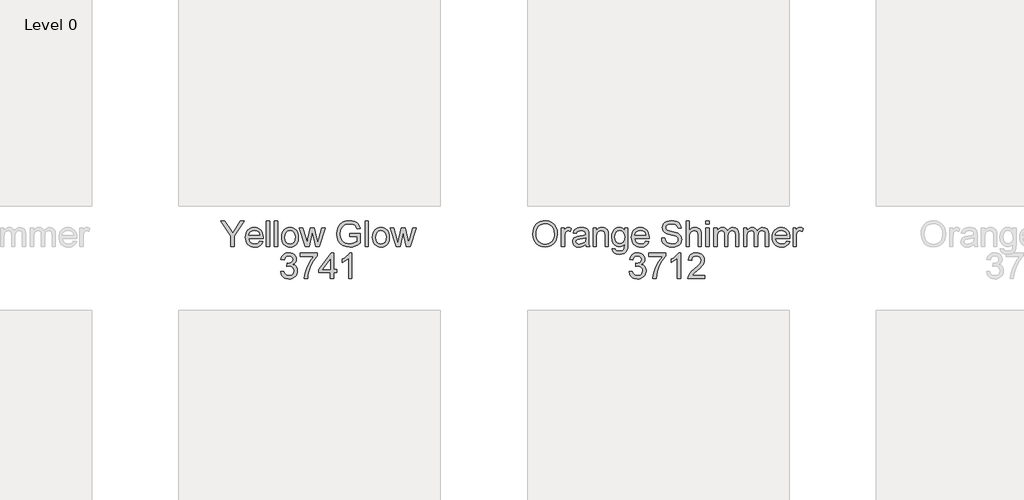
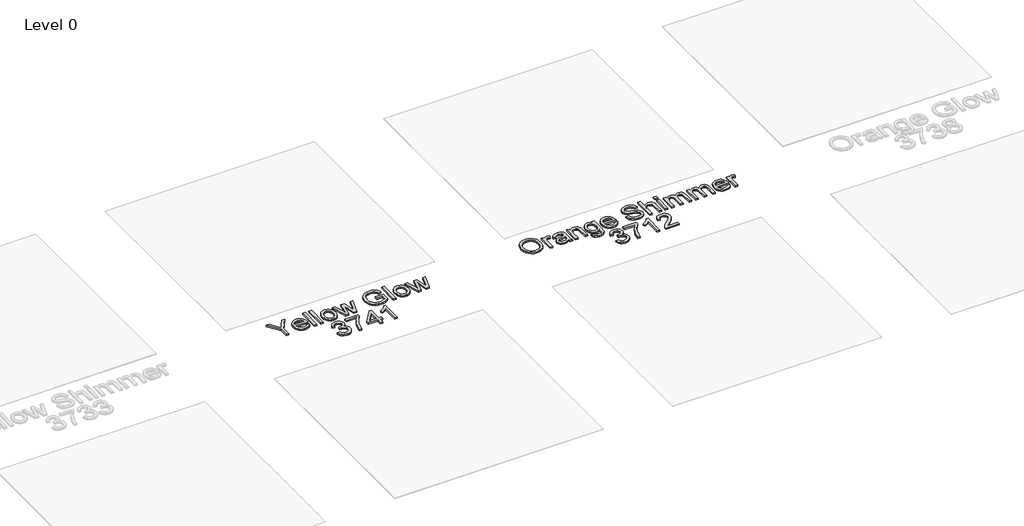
# One storey, part 13 of 14: 2 proxies.
"""IFC4 building model written with IfcOpenShell, lengths in millimetres."""

from ifc_helpers import new_model, si_unit, origin, origin_with_axes, place, context, project, spatial, polyline, outline, extrude, element, save

model = new_model("IFC4")

# Units and contexts
model_context = context("Model", 3, world=origin())
ifc_project = project(units=[si_unit("LENGTHUNIT", "METRE", prefix="MILLI")], contexts=[model_context])

# Site, building, storey
site = spatial("IfcSite", under=ifc_project)
building = spatial("IfcBuilding", under=site)
storey = spatial("IfcBuildingStorey", under=building, Name="Level 0", Elevation=0.0)

# Proxies
placement = place(None, origin())
element("IfcBuildingElementProxy", 1, Name="300mm Arial", ObjectType="300mm Arial", at=placement, inside=storey, context=model_context, shape_type="SweptSolid", body=[
    extrude(outline(polyline([(-4856.1906494, 2062.8269821), (-4856.1906494, 2187.9471745), (-4971.5752648, 2358.2115975), (-4928.0175725, 2358.2115975), (-4866.431034, 2267.2740975), (-4834.916611, 2220.9039052), (-4803.3300725, 2270.5914052), (-4747.4406494, 2358.2115975), (-4703.8829571, 2358.2115975), (-4819.2675725, 2187.9471745), (-4819.2675725, 2062.8269821), (-4856.1906494, 2062.8269821)])), origin_with_axes(), (0.0, 0.0, 1.0), 20.0),
    extrude(outline(polyline([(-4524.3156494, 2127.4423668), (-4488.1137264, 2122.8269821), (-4501.1575965, 2095.5493379), (-4521.9718994, 2075.1587129), (-4550.087885, 2062.4483764), (-4585.0368033, 2058.2115975), (-4607.9469595, 2060.0392718), (-4628.3601206, 2065.5222946), (-4646.2762864, 2074.660666), (-4661.6954571, 2087.454386), (-4674.0947961, 2103.5473848), (-4682.9514667, 2122.5835927), (-4688.2654691, 2144.5630098), (-4690.0368033, 2169.485636), (-4688.2474403, 2195.2533644), (-4682.8793514, 2217.9652033), (-4673.9325364, 2237.6211528), (-4661.4069956, 2254.2212129), (-4646.0283898, 2267.4093139), (-4628.5223802, 2276.829386), (-4608.8889667, 2282.4814293), (-4587.1281494, 2284.3654437), (-4566.0682035, 2282.4859365), (-4547.0229812, 2276.8474148), (-4529.9924824, 2267.4498788), (-4514.9767071, 2254.2933283), (-4502.7193453, 2237.7293259), (-4493.9640869, 2218.1094341), (-4488.7109319, 2195.4336528), (-4486.9598802, 2169.7019821), (-4487.1762264, 2159.7500591), (-4653.1137264, 2159.7500591), (-4646.7225004, 2132.1118379), (-4631.8757456, 2111.7933283), (-4610.4484619, 2099.2993379), (-4584.3156494, 2095.1346745), (-4564.6642071, 2097.063761), (-4548.1137264, 2102.8510206), (-4534.6642071, 2112.8570302), (-4524.3156494, 2127.4423668)]), holes=[polyline([(-4653.1137264, 2196.673136), (-4523.8829571, 2196.673136), (-4528.8769475, 2216.1803475), (-4538.666611, 2230.1346745), (-4560.1930533, 2243.1154437), (-4587.2723802, 2247.4423668), (-4612.1612023, 2243.9898427), (-4632.7411302, 2233.6322706), (-4647.0470196, 2217.4874389), (-4653.1137264, 2196.673136)])]), origin_with_axes(), (0.0, 0.0, 1.0), 20.0),
    extrude(outline(polyline([(-4450.0368033, 2062.8269821), (-4450.0368033, 2358.2115975), (-4413.1137264, 2358.2115975), (-4413.1137264, 2062.8269821), (-4450.0368033, 2062.8269821)])), origin_with_axes(), (0.0, 0.0, 1.0), 20.0),
    extrude(outline(polyline([(-4357.729111, 2062.8269821), (-4357.729111, 2358.2115975), (-4320.806034, 2358.2115975), (-4320.806034, 2062.8269821), (-4357.729111, 2062.8269821)])), origin_with_axes(), (0.0, 0.0, 1.0), 20.0),
    extrude(outline(polyline([(-4274.6521879, 2171.2885206), (-4272.6554932, 2199.3819701), (-4266.665409, 2223.5902033), (-4256.6819355, 2243.9132201), (-4242.7050725, 2260.3510206), (-4228.6335581, 2270.8573307), (-4213.1017071, 2278.3618379), (-4196.1095196, 2282.8645422), (-4177.6569956, 2284.3654437), (-4157.286653, 2282.5377694), (-4138.8679331, 2277.0547466), (-4122.4008357, 2267.9163752), (-4107.885361, 2255.1226552), (-4096.0381554, 2239.106279), (-4087.5758658, 2220.2999389), (-4082.498492, 2198.7036348), (-4080.806034, 2174.3173668), (-4083.7988225, 2137.0156841), (-4092.7771879, 2108.6202514), (-4107.4797119, 2087.3552273), (-4127.6449764, 2071.4447706), (-4151.5962985, 2061.5198908), (-4177.6569956, 2058.2115975), (-4198.3248141, 2060.032511), (-4216.9148081, 2065.4952514), (-4233.4269776, 2074.5998187), (-4247.8613225, 2087.3462129), (-4259.5823261, 2103.5180879), (-4267.9544715, 2122.8990975), (-4272.9777588, 2145.4892418), (-4274.6521879, 2171.2885206)]), holes=[polyline([(-4237.729111, 2171.360636), (-4233.4562744, 2137.9441696), (-4220.6377648, 2114.1370783), (-4201.3468994, 2099.8852754), (-4177.6569956, 2095.1346745), (-4154.0752648, 2099.9123187), (-4134.8204571, 2114.2452514), (-4122.0019475, 2138.3678475), (-4117.729111, 2172.5144821), (-4122.0289908, 2204.9573908), (-4134.9286302, 2228.4399629), (-4154.2104812, 2242.6917658), (-4177.6569956, 2247.4423668), (-4201.3468994, 2242.7097946), (-4220.6377648, 2228.5120783), (-4233.4562744, 2204.7590735), (-4237.729111, 2171.360636)])]), origin_with_axes(), (0.0, 0.0, 1.0), 20.0),
    extrude(outline(polyline([(-4003.2819956, 2062.8269821), (-4069.2675725, 2279.7500591), (-4030.9021879, 2279.7500591), (-3993.4743033, 2153.1875591), (-3982.2964187, 2107.9712129), (-3973.1377648, 2151.5289052), (-3943.354111, 2279.7500591), (-3899.3637264, 2279.7500591), (-3869.7243033, 2151.8894821), (-3861.5752648, 2112.4423668), (-3849.8925725, 2154.0529437), (-3812.3925725, 2279.7500591), (-3773.8829571, 2279.7500591), (-3840.3733417, 2062.8269821), (-3885.0127648, 2062.8269821), (-3913.354111, 2190.0385206), (-3921.5752648, 2229.7019821), (-3958.1377648, 2062.8269821), (-4003.2819956, 2062.8269821)])), origin_with_axes(), (0.0, 0.0, 1.0), 20.0),
    extrude(outline(polyline([(-3490.0368033, 2178.2115975), (-3490.0368033, 2215.1346745), (-3370.0368033, 2215.1346745), (-3370.0368033, 2104.7260206), (-3399.1984619, 2084.4435687), (-3429.2795917, 2069.8942898), (-3460.2080773, 2061.1322706), (-3491.9118033, 2058.2115975), (-3533.3330773, 2062.8540254), (-3570.7699764, 2076.7813091), (-3601.869736, 2099.5066696), (-3624.2795917, 2130.5433283), (-3637.8282696, 2167.7728956), (-3642.3444956, 2209.0769821), (-3637.8462985, 2250.6785446), (-3624.3517071, 2289.3774629), (-3602.4196158, 2321.8384004), (-3572.6089187, 2344.7260206), (-3536.2988225, 2358.3017418), (-3494.868534, 2362.8269821), (-3464.4538706, 2360.203785), (-3437.104111, 2352.3341937), (-3414.07226, 2339.7861168), (-3396.6113225, 2323.1274629), (-3383.6936542, 2301.5559485), (-3374.291611, 2274.2692898), (-3408.3300725, 2264.6779437), (-3415.9292312, 2284.1400831), (-3425.1690148, 2298.8245783), (-3437.3925725, 2309.8942898), (-3453.9430533, 2318.5120783), (-3473.6756254, 2324.0559485), (-3495.4454571, 2325.9039052), (-3520.9292312, 2323.9117177), (-3542.7170917, 2317.9351552), (-3560.727909, 2308.7224148), (-3574.8805533, 2297.0216937), (-3593.8829571, 2268.5721745), (-3602.5368033, 2240.6995783), (-3605.4214187, 2210.5914052), (-3601.9508658, 2175.28191), (-3591.5392071, 2146.2284245), (-3574.5019475, 2123.6382802), (-3551.1545917, 2107.7188091), (-3523.8318754, 2098.2807081), (-3494.868534, 2095.1346745), (-3469.2946158, 2097.5054677), (-3444.3517071, 2104.6178475), (-3422.6900485, 2114.4165254), (-3406.9598802, 2124.8462129), (-3406.9598802, 2178.2115975), (-3490.0368033, 2178.2115975)])), origin_with_axes(), (0.0, 0.0, 1.0), 20.0),
    extrude(outline(polyline([(-3314.6521879, 2062.8269821), (-3314.6521879, 2358.2115975), (-3277.729111, 2358.2115975), (-3277.729111, 2062.8269821), (-3314.6521879, 2062.8269821)])), origin_with_axes(), (0.0, 0.0, 1.0), 20.0),
    extrude(outline(polyline([(-3231.5752648, 2171.2885206), (-3229.5785701, 2199.3819701), (-3223.588486, 2223.5902033), (-3213.6050124, 2243.9132201), (-3199.6281494, 2260.3510206), (-3185.556635, 2270.8573307), (-3170.024784, 2278.3618379), (-3153.0325965, 2282.8645422), (-3134.5800725, 2284.3654437), (-3114.20973, 2282.5377694), (-3095.79101, 2277.0547466), (-3079.3239127, 2267.9163752), (-3064.8084379, 2255.1226552), (-3052.9612324, 2239.106279), (-3044.4989427, 2220.2999389), (-3039.4215689, 2198.7036348), (-3037.729111, 2174.3173668), (-3040.7218994, 2137.0156841), (-3049.7002648, 2108.6202514), (-3064.4027889, 2087.3552273), (-3084.5680533, 2071.4447706), (-3108.5193754, 2061.5198908), (-3134.5800725, 2058.2115975), (-3155.247891, 2060.032511), (-3173.837885, 2065.4952514), (-3190.3500545, 2074.5998187), (-3204.7843994, 2087.3462129), (-3216.505403, 2103.5180879), (-3224.8775485, 2122.8990975), (-3229.9008357, 2145.4892418), (-3231.5752648, 2171.2885206)]), holes=[polyline([(-3194.6521879, 2171.360636), (-3190.3793514, 2137.9441696), (-3177.5608417, 2114.1370783), (-3158.2699764, 2099.8852754), (-3134.5800725, 2095.1346745), (-3110.9983417, 2099.9123187), (-3091.743534, 2114.2452514), (-3078.9250244, 2138.3678475), (-3074.6521879, 2172.5144821), (-3078.9520677, 2204.9573908), (-3091.8517071, 2228.4399629), (-3111.1335581, 2242.6917658), (-3134.5800725, 2247.4423668), (-3158.2699764, 2242.7097946), (-3177.5608417, 2228.5120783), (-3190.3793514, 2204.7590735), (-3194.6521879, 2171.360636)])]), origin_with_axes(), (0.0, 0.0, 1.0), 20.0),
    extrude(outline(polyline([(-2960.2050725, 2062.8269821), (-3026.1906494, 2279.7500591), (-2987.8252648, 2279.7500591), (-2950.3973802, 2153.1875591), (-2939.2194956, 2107.9712129), (-2930.0608417, 2151.5289052), (-2900.2771879, 2279.7500591), (-2856.2868033, 2279.7500591), (-2826.6473802, 2151.8894821), (-2818.4983417, 2112.4423668), (-2806.8156494, 2154.0529437), (-2769.3156494, 2279.7500591), (-2730.806034, 2279.7500591), (-2797.2964187, 2062.8269821), (-2841.9358417, 2062.8269821), (-2870.2771879, 2190.0385206), (-2878.4983417, 2229.7019821), (-2915.0608417, 2062.8269821), (-2960.2050725, 2062.8269821)])), origin_with_axes(), (0.0, 0.0, 1.0), 20.0),
    extrude(outline(polyline([(-4286.1906494, 1776.673136), (-4249.2675725, 1781.2885206), (-4241.0013465, 1758.0853956), (-4228.8949764, 1742.4183283), (-4212.35351, 1733.4940495), (-4190.7819956, 1730.5192898), (-4165.4694956, 1734.6118379), (-4145.9262264, 1746.8894821), (-4133.432236, 1765.2067898), (-4129.2675725, 1787.4183283), (-4133.3961783, 1808.5030639), (-4145.7819956, 1825.6034245), (-4164.5319956, 1836.9345543), (-4187.7531494, 1840.7115975), (-4213.6425725, 1836.673136), (-4209.5319956, 1873.5962129), (-4203.618534, 1873.1635206), (-4181.4971398, 1875.813761), (-4161.7194956, 1883.7644821), (-4147.7651687, 1897.2140014), (-4143.1137264, 1916.360636), (-4146.4851206, 1932.3071504), (-4156.5993033, 1945.2428475), (-4172.0319956, 1953.8155639), (-4191.3589187, 1956.673136), (-4210.7218994, 1953.7885206), (-4226.5512264, 1945.1346745), (-4238.1077167, 1930.7115975), (-4244.6521879, 1910.5192898), (-4281.5752648, 1915.1346745), (-4270.7038706, 1948.2897225), (-4251.3589187, 1973.0433283), (-4224.8925725, 1988.4579918), (-4192.6569956, 1993.5962129), (-4169.4448562, 1991.06316), (-4148.1257456, 1983.4640014), (-4130.150986, 1971.4748187), (-4116.9718994, 1955.7716937), (-4108.8859619, 1937.6797466), (-4106.1906494, 1918.5240975), (-4108.7507456, 1900.6755398), (-4116.431034, 1884.485636), (-4129.1233417, 1870.6935687), (-4146.7194956, 1860.0385206), (-4123.6065148, 1850.6995783), (-4106.479111, 1834.798136), (-4095.8781494, 1813.1995783), (-4092.3444956, 1786.7692898), (-4094.1113225, 1768.0373187), (-4099.4118033, 1750.7837129), (-4108.2459379, 1735.0084725), (-4120.6137264, 1720.7115975), (-4135.6813345, 1708.8486168), (-4152.6149283, 1700.3750591), (-4171.4145076, 1695.2909245), (-4192.0800725, 1693.5962129), (-4227.7771879, 1699.3834725), (-4243.1377648, 1706.6175471), (-4256.8396879, 1716.7452514), (-4268.3285701, 1729.1716336), (-4277.0500244, 1743.3017418), (-4286.1906494, 1776.673136)])), origin_with_axes(), (0.0, 0.0, 1.0), 20.0),
    extrude(outline(polyline([(-4060.0368033, 1952.0577514), (-4060.0368033, 1988.9808283), (-3866.1906494, 1988.9808283), (-3866.1906494, 1959.1250591), (-3893.8198562, 1924.158112), (-3921.1786302, 1879.6899629), (-3945.3102408, 1829.7771023), (-3963.2579571, 1778.4760206), (-3972.056034, 1740.0926071), (-3976.9598802, 1698.2115975), (-4013.8829571, 1698.2115975), (-4009.8895677, 1736.2704918), (-3999.2074764, 1781.5048668), (-3982.1251446, 1829.4525831), (-3958.931034, 1875.6515014), (-3931.8517071, 1917.4153235), (-3903.1137264, 1952.0577514), (-4060.0368033, 1952.0577514)])), origin_with_axes(), (0.0, 0.0, 1.0), 20.0),
    extrude(outline(polyline([(-3713.8829571, 1698.2115975), (-3713.8829571, 1767.4423668), (-3847.729111, 1767.4423668), (-3847.729111, 1804.3654437), (-3704.6521879, 1988.9808283), (-3676.9598802, 1988.9808283), (-3676.9598802, 1804.3654437), (-3640.0368033, 1804.3654437), (-3640.0368033, 1767.4423668), (-3676.9598802, 1767.4423668), (-3676.9598802, 1698.2115975), (-3713.8829571, 1698.2115975)]), holes=[polyline([(-3713.8829571, 1804.3654437), (-3713.8829571, 1918.4519821), (-3802.2964187, 1804.3654437), (-3713.8829571, 1804.3654437)])]), origin_with_axes(), (0.0, 0.0, 1.0), 20.0),
    extrude(outline(polyline([(-3469.2675725, 1698.2115975), (-3506.1906494, 1698.2115975), (-3506.1906494, 1928.4039052), (-3541.166611, 1903.4880398), (-3580.0368033, 1884.8462129), (-3580.0368033, 1919.7500591), (-3551.0374042, 1935.5252995), (-3525.9142071, 1954.2933283), (-3506.1095196, 1974.251261), (-3493.0656494, 1993.5962129), (-3469.2675725, 1993.5962129), (-3469.2675725, 1698.2115975)])), origin_with_axes(), (0.0, 0.0, 1.0), 20.0),
])
element("IfcBuildingElementProxy", 2, Name="300mm Arial", ObjectType="300mm Arial", at=placement, inside=storey, context=model_context, shape_type="SweptSolid", body=[
    extrude(outline(polyline([(-1391.5752648, 2206.6250591), (-1389.1143273, 2241.2719942), (-1381.7315148, 2271.9435687), (-1369.4268273, 2298.6397826), (-1352.2002648, 2321.360636), (-1331.0839788, 2339.5021624), (-1307.1101206, 2352.4603956), (-1280.2786903, 2360.2353355), (-1250.5896879, 2362.8269821), (-1211.8456975, 2357.9591937), (-1177.104111, 2343.3558283), (-1148.2579571, 2320.0445302), (-1127.2002648, 2289.0529437), (-1114.3276687, 2251.8774629), (-1110.0368033, 2210.0144821), (-1114.5530292, 2167.5926071), (-1128.1017071, 2129.8942898), (-1149.9346398, 2098.8486168), (-1179.3036302, 2076.3846745), (-1213.7477408, 2062.7548668), (-1250.806034, 2058.2115975), (-1290.1449764, 2063.2326312), (-1325.0848802, 2078.2957321), (-1353.8589187, 2102.0397225), (-1374.7002648, 2133.1034245), (-1387.3565148, 2168.845612), (-1391.5752648, 2206.6250591)]), holes=[polyline([(-1354.6521879, 2206.2644821), (-1352.8064848, 2181.7858163), (-1347.2693754, 2160.0565495), (-1338.0408598, 2141.0766817), (-1325.1209379, 2124.8462129), (-1309.4155593, 2111.8474148), (-1291.8306735, 2102.5625591), (-1272.3662804, 2096.9916456), (-1251.0223802, 2095.1346745), (-1229.3133958, 2097.0096745), (-1209.619135, 2102.6346745), (-1191.9395977, 2112.0096745), (-1176.274784, 2125.1346745), (-1163.4495136, 2141.7076913), (-1154.2886062, 2161.4267418), (-1148.7920617, 2184.2918259), (-1146.9598802, 2210.3029437), (-1150.0968994, 2242.9892418), (-1159.5079571, 2271.2404437), (-1174.9496639, 2294.34441), (-1196.1786302, 2311.5890014), (-1221.7886062, 2322.3251793), (-1250.3733417, 2325.9039052), (-1270.9758057, 2324.1798968), (-1290.0908898, 2319.0078716), (-1307.7185941, 2310.3878295), (-1323.8589187, 2298.3197706), (-1337.3309739, 2282.2222646), (-1346.9538706, 2261.5138812), (-1352.7276086, 2236.1946204), (-1354.6521879, 2206.2644821)])]), origin_with_axes(), (0.0, 0.0, 1.0), 20.0),
    extrude(outline(polyline([(-1063.8829571, 2062.8269821), (-1063.8829571, 2279.7500591), (-1031.5752648, 2279.7500591), (-1031.5752648, 2247.6587129), (-1019.6401687, 2266.2644821), (-1008.6425725, 2277.2260206), (-997.6089187, 2282.5805879), (-985.5656494, 2284.3654437), (-967.1762264, 2281.516886), (-948.4983417, 2272.9712129), (-960.8300725, 2239.8702514), (-973.8108417, 2245.5493379), (-986.791611, 2247.4423668), (-997.8162504, 2245.6214533), (-1007.6690148, 2240.1587129), (-1015.6287504, 2231.4688091), (-1020.9743033, 2219.9664052), (-1025.463486, 2199.3414052), (-1026.9598802, 2176.8414052), (-1026.9598802, 2062.8269821), (-1063.8829571, 2062.8269821)])), origin_with_axes(), (0.0, 0.0, 1.0), 20.0),
    extrude(outline(polyline([(-786.9598802, 2090.5192898), (-804.6011062, 2075.3930879), (-822.7651687, 2065.4952514), (-841.8667312, 2060.032511), (-862.3204571, 2058.2115975), (-893.1768273, 2062.5926071), (-915.9382456, 2075.735636), (-929.9737023, 2095.6935687), (-934.6521879, 2120.5192898), (-932.885361, 2135.8257802), (-927.5848802, 2149.7260206), (-919.4087985, 2161.6250591), (-909.0151687, 2170.9279437), (-883.1618033, 2183.0433283), (-851.2146879, 2188.5962129), (-813.462284, 2194.4375591), (-787.1762264, 2201.2885206), (-786.9598802, 2209.5096745), (-789.5019475, 2225.9880398), (-797.1281494, 2236.7692898), (-814.1834379, 2244.7740975), (-837.9454571, 2247.4423668), (-859.9406494, 2245.6665254), (-875.3012264, 2240.3390014), (-885.775986, 2230.486237), (-893.1137264, 2215.1346745), (-930.0368033, 2219.7500591), (-923.6275485, 2239.9423668), (-914.0632456, 2255.8077514), (-900.4514667, 2267.9411648), (-881.899784, 2276.9375591), (-859.2104812, 2282.5084725), (-833.1858417, 2284.3654437), (-808.2249042, 2282.7248187), (-788.4382456, 2277.8029437), (-773.5193754, 2270.4021023), (-763.1618033, 2261.3245783), (-756.2928129, 2250.1016216), (-751.8396879, 2236.2644821), (-750.0368033, 2203.9567898), (-750.0368033, 2158.0192898), (-748.1618033, 2093.8726552), (-740.806034, 2062.8269821), (-777.729111, 2062.8269821), (-786.9598802, 2090.5192898)]), holes=[polyline([(-786.9598802, 2164.3654437), (-846.5271879, 2153.0433283), (-878.2940148, 2147.0577514), (-892.681034, 2137.3221745), (-897.729111, 2123.1154437), (-894.9797119, 2112.1358764), (-886.7315148, 2103.1394821), (-873.1648081, 2097.1358764), (-854.4598802, 2095.1346745), (-834.6281494, 2097.3432081), (-817.104111, 2103.9688091), (-802.8973802, 2113.7314293), (-793.0175725, 2125.3510206), (-788.6365629, 2137.3221745), (-787.1762264, 2153.9087129), (-786.9598802, 2164.3654437)])]), origin_with_axes(), (0.0, 0.0, 1.0), 20.0),
    extrude(outline(polyline([(-699.2675725, 2062.8269821), (-699.2675725, 2279.7500591), (-662.3444956, 2279.7500591), (-662.3444956, 2249.4615975), (-649.5169715, 2264.7320302), (-634.1113225, 2275.6394821), (-616.1275485, 2282.1839533), (-595.5656494, 2284.3654437), (-577.3655292, 2282.6076312), (-560.697861, 2277.3341937), (-546.7976206, 2269.2031841), (-536.899784, 2258.8726552), (-525.8300725, 2231.7212129), (-523.8829571, 2196.0240975), (-523.8829571, 2062.8269821), (-560.806034, 2062.8269821), (-560.806034, 2191.048136), (-565.0608417, 2223.7164052), (-570.94726, 2233.4429677), (-580.0968994, 2240.9880398), (-591.8246639, 2245.828785), (-605.4454571, 2247.4423668), (-627.0710581, 2243.8185687), (-645.5055533, 2232.9471745), (-652.8725905, 2224.0724749), (-658.13476, 2211.9435687), (-662.3444956, 2177.923136), (-662.3444956, 2062.8269821), (-699.2675725, 2062.8269821)])), origin_with_axes(), (0.0, 0.0, 1.0), 20.0),
    extrude(outline(polyline([(-482.3444956, 2044.3654437), (-445.4214187, 2039.7500591), (-441.3468994, 2028.2115975), (-433.4502648, 2020.2789052), (-417.9274283, 2014.1130398), (-397.6089187, 2012.0577514), (-375.9382456, 2014.3834725), (-359.8204571, 2021.360636), (-348.6425725, 2032.5385206), (-341.791611, 2047.4664052), (-339.2675725, 2090.5192898), (-351.5542312, 2078.4039052), (-365.2651687, 2069.7500591), (-380.400385, 2064.5577514), (-396.9598802, 2062.8269821), (-417.2040208, 2064.8417057), (-435.0277889, 2070.8858764), (-450.4311843, 2080.9594942), (-463.4142071, 2095.0625591), (-473.7154391, 2111.9826312), (-481.0734619, 2130.5072706), (-486.9598802, 2172.3702514), (-484.3186542, 2202.1809485), (-476.3949764, 2229.5938091), (-463.4682937, 2252.8239773), (-445.8180533, 2270.0865975), (-424.0482215, 2280.7957321), (-398.7627648, 2284.3654437), (-381.4956374, 2282.3462129), (-365.8240629, 2276.2885206), (-351.7480413, 2266.1923668), (-339.2675725, 2252.0577514), (-339.2675725, 2279.7500591), (-302.3444956, 2279.7500591), (-302.3444956, 2092.4664052), (-304.868534, 2049.2242177), (-312.4406494, 2020.7476552), (-325.4845196, 2001.8624389), (-344.4238225, 1987.3942898), (-368.8438946, 1978.1995783), (-398.3300725, 1975.1346745), (-432.6840389, 1979.4525831), (-459.7363225, 1992.4063091), (-469.9248742, 2002.130618), (-477.0890869, 2014.03191), (-481.2289607, 2028.1101853), (-482.3444956, 2044.3654437)]), holes=[polyline([(-450.0368033, 2174.8942898), (-446.0975004, 2141.0271023), (-434.2795917, 2117.7428475), (-416.5121639, 2104.2482562), (-394.7243033, 2099.7500591), (-373.0987023, 2104.2212129), (-355.2411302, 2117.6346745), (-343.2609619, 2140.6214533), (-339.2675725, 2173.8125591), (-343.3781494, 2205.8227754), (-355.7098802, 2228.8726552), (-373.8288706, 2242.7999389), (-395.3012264, 2247.4423668), (-416.3859619, 2242.8720543), (-434.0632456, 2229.1611168), (-446.0434139, 2206.453785), (-450.0368033, 2174.8942898)])]), origin_with_axes(), (0.0, 0.0, 1.0), 20.0),
    extrude(outline(polyline([(-95.0848802, 2127.4423668), (-58.8829571, 2122.8269821), (-71.9268273, 2095.5493379), (-92.7411302, 2075.1587129), (-120.8571158, 2062.4483764), (-155.806034, 2058.2115975), (-178.7161903, 2060.0392718), (-199.1293514, 2065.5222946), (-217.0455172, 2074.660666), (-232.4646879, 2087.454386), (-244.8640268, 2103.5473848), (-253.7206975, 2122.5835927), (-259.0346999, 2144.5630098), (-260.806034, 2169.485636), (-259.0166711, 2195.2533644), (-253.6485821, 2217.9652033), (-244.7017672, 2237.6211528), (-232.1762264, 2254.2212129), (-216.7976206, 2267.4093139), (-199.291611, 2276.829386), (-179.6581975, 2282.4814293), (-157.8973802, 2284.3654437), (-136.8374343, 2282.4859365), (-117.7922119, 2276.8474148), (-100.7617131, 2267.4498788), (-85.7459379, 2254.2933283), (-73.4885761, 2237.7293259), (-64.7333177, 2218.1094341), (-59.4801627, 2195.4336528), (-57.729111, 2169.7019821), (-57.9454571, 2159.7500591), (-223.8829571, 2159.7500591), (-217.4917312, 2132.1118379), (-202.6449764, 2111.7933283), (-181.2176927, 2099.2993379), (-155.0848802, 2095.1346745), (-135.4334379, 2097.063761), (-118.8829571, 2102.8510206), (-105.4334379, 2112.8570302), (-95.0848802, 2127.4423668)]), holes=[polyline([(-223.8829571, 2196.673136), (-94.6521879, 2196.673136), (-99.6461783, 2216.1803475), (-109.4358417, 2230.1346745), (-130.962284, 2243.1154437), (-158.041611, 2247.4423668), (-182.9304331, 2243.9898427), (-203.510361, 2233.6322706), (-217.8162504, 2217.4874389), (-223.8829571, 2196.673136)])]), origin_with_axes(), (0.0, 0.0, 1.0), 20.0),
    extrude(outline(polyline([(85.3478121, 2164.3654437), (122.270889, 2164.3654437), (126.5076679, 2143.87566), (134.1699275, 2127.4063091), (146.1230525, 2114.3353956), (163.2324275, 2104.0409245), (184.145889, 2097.361237), (207.5112736, 2095.1346745), (228.0821871, 2096.8203716), (246.0930044, 2101.8774629), (260.6873554, 2109.8822706), (271.0088698, 2120.4111168), (277.1476919, 2132.4994581), (279.193966, 2145.1827514), (277.661514, 2157.5415254), (273.0641583, 2168.2236168), (263.725216, 2177.3371985), (247.9680044, 2184.9904437), (194.2059852, 2199.0890014), (158.9145188, 2208.4189293), (136.333389, 2217.298136), (117.9529804, 2229.720011), (104.927139, 2244.7740975), (97.1657208, 2262.1358764), (94.5785813, 2281.4808283), (97.7787015, 2303.1064293), (107.3790621, 2323.2716937), (123.1272592, 2340.3630398), (144.770889, 2352.766886), (170.7504563, 2360.3119581), (199.506466, 2362.8269821), (230.6603121, 2360.1947706), (257.9199275, 2352.298136), (280.3117544, 2339.2993379), (296.8622352, 2321.360636), (307.3369948, 2299.5998187), (311.5016583, 2275.1346745), (274.5785813, 2275.1346745), (267.7997352, 2297.1659245), (253.6651198, 2313.0673668), (231.5797833, 2322.6947706), (200.9487736, 2325.9039052), (169.5966102, 2322.7308283), (148.0881967, 2313.2115975), (135.6482929, 2299.2031841), (131.5016583, 2282.5625591), (134.4403602, 2268.3738571), (143.256466, 2256.9615975), (164.0978121, 2246.7572706), (203.5449275, 2236.3365975), (268.881466, 2217.8029437), (289.9301438, 2204.407511), (304.614639, 2187.8750591), (313.2414419, 2168.3858764), (316.1170429, 2146.1202514), (312.8087496, 2123.3588331), (302.8838698, 2101.9495783), (286.7480525, 2083.5240975), (264.8069467, 2069.7140014), (238.4217304, 2061.0871985), (208.9535813, 2058.2115975), (172.7787015, 2061.3125591), (143.0040621, 2070.6154437), (119.287115, 2086.1563091), (101.2853121, 2107.9712129), (89.7288217, 2134.5457321), (85.3478121, 2164.3654437)])), origin_with_axes(), (0.0, 0.0, 1.0), 20.0),
    extrude(outline(polyline([(366.8862736, 2062.8269821), (366.8862736, 2358.2115975), (403.8093506, 2358.2115975), (403.8093506, 2249.6058283), (417.3715501, 2264.81316), (432.6014179, 2275.6755398), (449.4989539, 2282.1929677), (468.0641583, 2284.3654437), (490.365841, 2281.9946504), (509.5305044, 2274.8822706), (524.6206486, 2263.5871985), (534.6987736, 2248.6683283), (540.3778602, 2228.1695302), (542.270889, 2200.1346745), (542.270889, 2062.8269821), (505.3478121, 2062.8269821), (505.3478121, 2196.3125591), (502.4091102, 2219.4255398), (493.5930044, 2235.2548668), (479.3862736, 2244.3954918), (460.2756967, 2247.4423668), (444.6717304, 2245.3870783), (430.0232929, 2239.2212129), (417.8898794, 2229.5397225), (409.8309852, 2216.9375591), (405.3147592, 2200.188761), (403.8093506, 2178.0673668), (403.8093506, 2062.8269821), (366.8862736, 2062.8269821)])), origin_with_axes(), (0.0, 0.0, 1.0), 20.0),
    extrude(outline(polyline([(593.0401198, 2321.2885206), (593.0401198, 2358.2115975), (629.9631967, 2358.2115975), (629.9631967, 2321.2885206), (593.0401198, 2321.2885206)])), origin_with_axes(), (0.0, 0.0, 1.0), 20.0),
    extrude(outline(polyline([(593.0401198, 2062.8269821), (593.0401198, 2279.7500591), (629.9631967, 2279.7500591), (629.9631967, 2062.8269821), (593.0401198, 2062.8269821)])), origin_with_axes(), (0.0, 0.0, 1.0), 20.0),
    extrude(outline(polyline([(685.3478121, 2062.8269821), (685.3478121, 2279.7500591), (722.270889, 2279.7500591), (722.270889, 2244.0529437), (733.3766583, 2260.4501793), (747.6555044, 2273.2957321), (764.6206486, 2281.5980158), (783.7853121, 2284.3654437), (804.3201679, 2281.5439293), (820.7805044, 2273.079386), (833.0761775, 2259.5307081), (841.1170429, 2241.4567898), (854.5755765, 2260.2293259), (869.927139, 2273.6382802), (887.1717304, 2281.6836528), (906.3093506, 2284.3654437), (934.0647592, 2279.9033043), (954.5906006, 2266.516886), (967.2738938, 2243.845612), (971.5016583, 2211.5289052), (971.5016583, 2062.8269821), (934.5785813, 2062.8269821), (934.5785813, 2195.6635206), (931.1531006, 2226.4928475), (926.3393986, 2234.9934485), (918.7492544, 2241.673136), (908.9866342, 2246.0000591), (897.6555044, 2247.4423668), (877.6524996, 2243.7464533), (861.3454083, 2232.6587129), (850.5010573, 2213.4219341), (846.8862736, 2185.2789052), (846.8862736, 2062.8269821), (809.9631967, 2062.8269821), (809.9631967, 2199.7740975), (807.8267785, 2220.6515014), (801.4175236, 2235.5433283), (790.1404804, 2244.4676071), (773.4006967, 2247.4423668), (759.1759371, 2245.4591937), (746.068966, 2239.5096745), (735.2516583, 2229.7380398), (727.895889, 2216.2885206), (723.677139, 2197.6286648), (722.270889, 2172.2260206), (722.270889, 2062.8269821), (685.3478121, 2062.8269821)])), origin_with_axes(), (0.0, 0.0, 1.0), 20.0),
    extrude(outline(polyline([(1026.8862736, 2062.8269821), (1026.8862736, 2279.7500591), (1063.8093506, 2279.7500591), (1063.8093506, 2244.0529437), (1074.9151198, 2260.4501793), (1089.193966, 2273.2957321), (1106.1591102, 2281.5980158), (1125.3237736, 2284.3654437), (1145.8586294, 2281.5439293), (1162.318966, 2273.079386), (1174.614639, 2259.5307081), (1182.6555044, 2241.4567898), (1196.1140381, 2260.2293259), (1211.4656006, 2273.6382802), (1228.7101919, 2281.6836528), (1247.8478121, 2284.3654437), (1275.6032208, 2279.9033043), (1296.1290621, 2266.516886), (1308.8123554, 2243.845612), (1313.0401198, 2211.5289052), (1313.0401198, 2062.8269821), (1276.1170429, 2062.8269821), (1276.1170429, 2195.6635206), (1272.6915621, 2226.4928475), (1267.8778602, 2234.9934485), (1260.287716, 2241.673136), (1250.5250958, 2246.0000591), (1239.193966, 2247.4423668), (1219.1909611, 2243.7464533), (1202.8838698, 2232.6587129), (1192.0395188, 2213.4219341), (1188.4247352, 2185.2789052), (1188.4247352, 2062.8269821), (1151.5016583, 2062.8269821), (1151.5016583, 2199.7740975), (1149.36524, 2220.6515014), (1142.9559852, 2235.5433283), (1131.6789419, 2244.4676071), (1114.9391583, 2247.4423668), (1100.7143986, 2245.4591937), (1087.6074275, 2239.5096745), (1076.7901198, 2229.7380398), (1069.4343506, 2216.2885206), (1065.2156006, 2197.6286648), (1063.8093506, 2172.2260206), (1063.8093506, 2062.8269821), (1026.8862736, 2062.8269821)])), origin_with_axes(), (0.0, 0.0, 1.0), 20.0),
    extrude(outline(polyline([(1520.2997352, 2127.4423668), (1556.5016583, 2122.8269821), (1543.4577881, 2095.5493379), (1522.6434852, 2075.1587129), (1494.5274996, 2062.4483764), (1459.5785813, 2058.2115975), (1436.6684251, 2060.0392718), (1416.255264, 2065.5222946), (1398.3390982, 2074.660666), (1382.9199275, 2087.454386), (1370.5205886, 2103.5473848), (1361.6639179, 2122.5835927), (1356.3499155, 2144.5630098), (1354.5785813, 2169.485636), (1356.3679443, 2195.2533644), (1361.7360333, 2217.9652033), (1370.6828482, 2237.6211528), (1383.208389, 2254.2212129), (1398.5869948, 2267.4093139), (1416.0930044, 2276.829386), (1435.7264179, 2282.4814293), (1457.4872352, 2284.3654437), (1478.5471811, 2282.4859365), (1497.5924035, 2276.8474148), (1514.6229023, 2267.4498788), (1529.6386775, 2254.2933283), (1541.8960393, 2237.7293259), (1550.6512977, 2218.1094341), (1555.9044527, 2195.4336528), (1557.6555044, 2169.7019821), (1557.4391583, 2159.7500591), (1391.5016583, 2159.7500591), (1397.8928842, 2132.1118379), (1412.739639, 2111.7933283), (1434.1669227, 2099.2993379), (1460.2997352, 2095.1346745), (1479.9511775, 2097.063761), (1496.5016583, 2102.8510206), (1509.9511775, 2112.8570302), (1520.2997352, 2127.4423668)]), holes=[polyline([(1391.5016583, 2196.673136), (1520.7324275, 2196.673136), (1515.7384371, 2216.1803475), (1505.9487736, 2230.1346745), (1484.4223313, 2243.1154437), (1457.3430044, 2247.4423668), (1432.4541823, 2243.9898427), (1411.8742544, 2233.6322706), (1397.568365, 2217.4874389), (1391.5016583, 2196.673136)])]), origin_with_axes(), (0.0, 0.0, 1.0), 20.0),
    extrude(outline(polyline([(1594.5785813, 2062.8269821), (1594.5785813, 2279.7500591), (1626.8862736, 2279.7500591), (1626.8862736, 2247.6587129), (1638.8213698, 2266.2644821), (1649.818966, 2277.2260206), (1660.8526198, 2282.5805879), (1672.895889, 2284.3654437), (1691.2853121, 2281.516886), (1709.9631967, 2272.9712129), (1697.631466, 2239.8702514), (1684.6506967, 2245.5493379), (1671.6699275, 2247.4423668), (1660.6452881, 2245.6214533), (1650.7925236, 2240.1587129), (1642.8327881, 2231.4688091), (1637.4872352, 2219.9664052), (1632.9980525, 2199.3414052), (1631.5016583, 2176.8414052), (1631.5016583, 2062.8269821), (1594.5785813, 2062.8269821)])), origin_with_axes(), (0.0, 0.0, 1.0), 20.0),
    extrude(outline(polyline([(-286.1906494, 1776.673136), (-249.2675725, 1781.2885206), (-241.0013465, 1758.0853956), (-228.8949764, 1742.4183283), (-212.35351, 1733.4940495), (-190.7819956, 1730.5192898), (-165.4694956, 1734.6118379), (-145.9262264, 1746.8894821), (-133.432236, 1765.2067898), (-129.2675725, 1787.4183283), (-133.3961783, 1808.5030639), (-145.7819956, 1825.6034245), (-164.5319956, 1836.9345543), (-187.7531494, 1840.7115975), (-213.6425725, 1836.673136), (-209.5319956, 1873.5962129), (-203.618534, 1873.1635206), (-181.4971398, 1875.813761), (-161.7194956, 1883.7644821), (-147.7651687, 1897.2140014), (-143.1137264, 1916.360636), (-146.4851206, 1932.3071504), (-156.5993033, 1945.2428475), (-172.0319956, 1953.8155639), (-191.3589187, 1956.673136), (-210.7218994, 1953.7885206), (-226.5512264, 1945.1346745), (-238.1077167, 1930.7115975), (-244.6521879, 1910.5192898), (-281.5752648, 1915.1346745), (-270.7038706, 1948.2897225), (-251.3589187, 1973.0433283), (-224.8925725, 1988.4579918), (-192.6569956, 1993.5962129), (-169.4448562, 1991.06316), (-148.1257456, 1983.4640014), (-130.150986, 1971.4748187), (-116.9718994, 1955.7716937), (-108.8859619, 1937.6797466), (-106.1906494, 1918.5240975), (-108.7507456, 1900.6755398), (-116.431034, 1884.485636), (-129.1233417, 1870.6935687), (-146.7194956, 1860.0385206), (-123.6065148, 1850.6995783), (-106.479111, 1834.798136), (-95.8781494, 1813.1995783), (-92.3444956, 1786.7692898), (-94.1113225, 1768.0373187), (-99.4118033, 1750.7837129), (-108.2459379, 1735.0084725), (-120.6137264, 1720.7115975), (-135.6813345, 1708.8486168), (-152.6149283, 1700.3750591), (-171.4145076, 1695.2909245), (-192.0800725, 1693.5962129), (-227.7771879, 1699.3834725), (-243.1377648, 1706.6175471), (-256.8396879, 1716.7452514), (-268.3285701, 1729.1716336), (-277.0500244, 1743.3017418), (-286.1906494, 1776.673136)])), origin_with_axes(), (0.0, 0.0, 1.0), 20.0),
    extrude(outline(polyline([(-60.0368033, 1952.0577514), (-60.0368033, 1988.9808283), (133.8093506, 1988.9808283), (133.8093506, 1959.1250591), (106.1801438, 1924.158112), (78.8213698, 1879.6899629), (54.6897592, 1829.7771023), (36.7420429, 1778.4760206), (27.943966, 1740.0926071), (23.0401198, 1698.2115975), (-13.8829571, 1698.2115975), (-9.8895677, 1736.2704918), (0.7925236, 1781.5048668), (17.8748554, 1829.4525831), (41.068966, 1875.6515014), (68.1482929, 1917.4153235), (96.8862736, 1952.0577514), (-60.0368033, 1952.0577514)])), origin_with_axes(), (0.0, 0.0, 1.0), 20.0),
    extrude(outline(polyline([(304.5785813, 1698.2115975), (267.6555044, 1698.2115975), (267.6555044, 1928.4039052), (232.6795429, 1903.4880398), (193.8093506, 1884.8462129), (193.8093506, 1919.7500591), (222.8087496, 1935.5252995), (247.9319467, 1954.2933283), (267.7366342, 1974.251261), (280.7805044, 1993.5962129), (304.5785813, 1993.5962129), (304.5785813, 1698.2115975)])), origin_with_axes(), (0.0, 0.0, 1.0), 20.0),
    extrude(outline(polyline([(581.5016583, 1735.1346745), (581.5016583, 1698.2115975), (387.6555044, 1698.2115975), (391.6218506, 1723.6683283), (400.7264179, 1743.56316), (414.0497352, 1762.8630398), (433.3225717, 1783.064362), (460.2756967, 1805.6635206), (500.1194467, 1841.0541456), (524.0256967, 1867.1779437), (535.9788217, 1888.3798668), (539.9631967, 1909.0048668), (536.2041823, 1927.4934485), (524.927139, 1942.8630398), (507.5924035, 1953.220612), (485.6603121, 1956.673136), (462.6284611, 1953.3017418), (444.7348313, 1943.1875591), (433.1873554, 1927.1238571), (429.193966, 1905.9039052), (392.270889, 1910.5192898), (401.2222111, 1946.2344341), (409.5988638, 1960.4817297), (420.5761775, 1972.3221745), (433.9017484, 1981.6295663), (449.3231727, 1988.2777033), (486.4535813, 1993.5962129), (506.2424936, 1992.1178475), (523.8544227, 1987.6827514), (539.2893686, 1980.2909245), (552.5473313, 1969.9423668), (563.1956186, 1957.4033043), (570.8015381, 1943.4399629), (575.3650898, 1928.0523427), (576.8862736, 1911.2404437), (575.2456486, 1893.5811889), (570.3237736, 1876.2284245), (561.5887977, 1858.5781841), (548.5088698, 1840.0265014), (527.6585092, 1817.8780639), (495.6122352, 1789.4375591), (453.1362736, 1753.9207321), (436.4776198, 1735.1346745), (581.5016583, 1735.1346745)])), origin_with_axes(), (0.0, 0.0, 1.0), 20.0),
])

save(model, "model.ifc")
